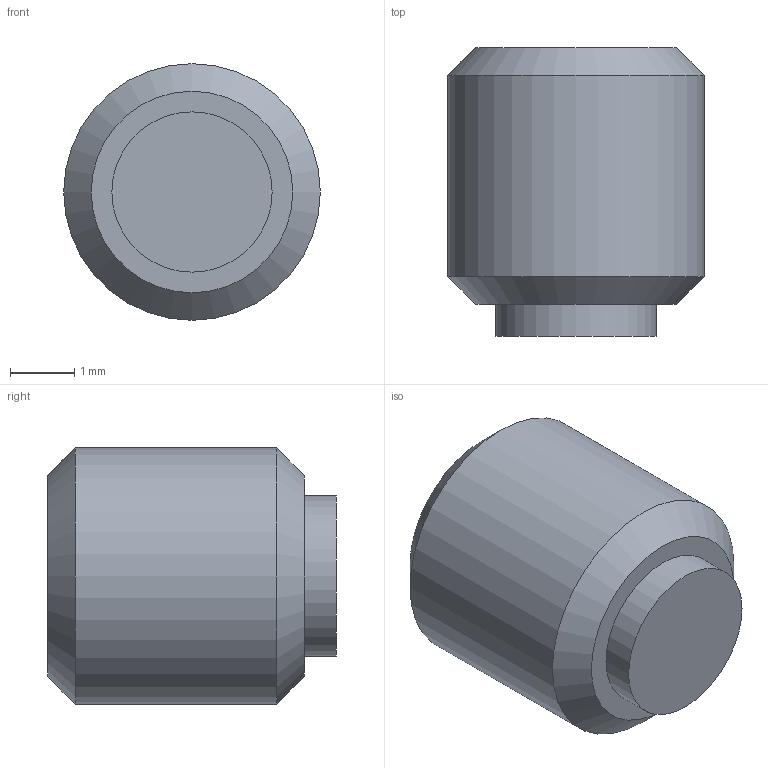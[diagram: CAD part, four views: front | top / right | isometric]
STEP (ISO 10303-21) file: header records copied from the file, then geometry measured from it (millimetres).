
FILE_DESCRIPTION( ( 'STEP AP203' ), '1' );
FILE_NAME( 'C:/Temp/Ganter_Step_05_03_2020/data/3_2/gn913_3/Grub screw GN 913.3-M4-4-MS.stp', '2020-03-13T05:35:44', ( 'License CC BY-ND 4.0' ), ( 'CADENAS' ), ' ', 'PARTsolutions', ' ' );
FILE_SCHEMA( ( 'CONFIG_CONTROL_DESIGN' ) );
Length unit declared in the file: millimetre
Products named in the file (1): _Grub screw GN 913.3-M4-4-MS
Bounding box: 4 x 4.5 x 4 mm (x, y, z)
Volume: 41.9 mm3; surface area: 89.8 mm2
Topology: 1 solids, 1 shells, 14 faces, 28 edges, 18 vertices
Faces by surface type: plane 10, cylinder 2, cone 2
Full cylindrical faces by diameter (mm): 2.5 x1, 4 x1
Entity records: 386 total; most frequent: DIRECTION 60, CARTESIAN_POINT 57, ORIENTED_EDGE 48, EDGE_CURVE 24, AXIS2_PLACEMENT_3D 21, EDGE_LOOP 20, VERTEX_POINT 18, LINE 18
